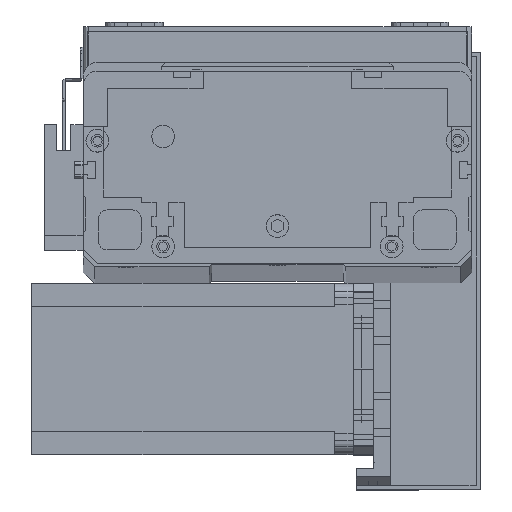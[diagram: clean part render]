
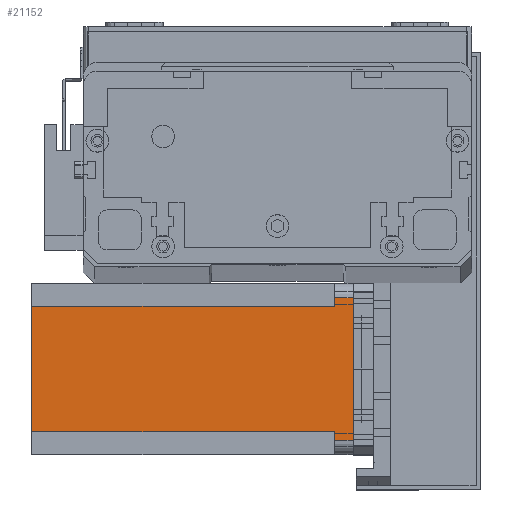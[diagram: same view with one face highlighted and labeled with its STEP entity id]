
A CAD part, top view. The second image highlights one B-rep face of the part: STEP entity #21152.
In plain terms, the highlighted planar face has unit normal (0, 0, 1) as drawn and (0, -1, 0) by its records, which use the part's own axes.
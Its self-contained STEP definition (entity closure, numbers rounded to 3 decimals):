
#128 = LINE ( 'NONE', #22608, #30851 ) ;
#885 = EDGE_CURVE ( 'NONE', #1690, #19047, #23284, .T. ) ;
#1068 = CARTESIAN_POINT ( 'NONE',  ( 8., 0., -6.5 ) ) ;
#1690 = VERTEX_POINT ( 'NONE', #24832 ) ;
#2565 = CARTESIAN_POINT ( 'NONE',  ( 52., 0., -6.5 ) ) ;
#2710 = CARTESIAN_POINT ( 'NONE',  ( 52., 0., -6.5 ) ) ;
#2885 = CARTESIAN_POINT ( 'NONE',  ( 0., 0., -112.5 ) ) ;
#3672 = AXIS2_PLACEMENT_3D ( 'NONE', #7650, #12640, #29608 ) ;
#4115 = VERTEX_POINT ( 'NONE', #2565 ) ;
#4399 = VERTEX_POINT ( 'NONE', #15112 ) ;
#4719 = VECTOR ( 'NONE', #12806, 1000. ) ;
#5925 = CARTESIAN_POINT ( 'NONE',  ( 52., 0., -112.5 ) ) ;
#6932 = EDGE_CURVE ( 'NONE', #1690, #30536, #29539, .T. ) ;
#7650 = CARTESIAN_POINT ( 'NONE',  ( 0., 0., -112.5 ) ) ;
#7760 = FACE_OUTER_BOUND ( 'NONE', #16315, .T. ) ;
#8192 = LINE ( 'NONE', #25888, #13909 ) ;
#8755 = VERTEX_POINT ( 'NONE', #1068 ) ;
#8926 = DIRECTION ( 'NONE',  ( 0., 0., 1. ) ) ;
#9480 = ORIENTED_EDGE ( 'NONE', *, *, #29306, .F. ) ;
#9752 = CARTESIAN_POINT ( 'NONE',  ( 8., 0., -6.5 ) ) ;
#11275 = VECTOR ( 'NONE', #30626, 1000. ) ;
#11493 = ORIENTED_EDGE ( 'NONE', *, *, #28710, .T. ) ;
#12525 = VECTOR ( 'NONE', #19890, 1000. ) ;
#12640 = DIRECTION ( 'NONE',  ( 0., -1., 0. ) ) ;
#12806 = DIRECTION ( 'NONE',  ( 1., 0., 0. ) ) ;
#13292 = LINE ( 'NONE', #2885, #12525 ) ;
#13803 = DIRECTION ( 'NONE',  ( 0., 0., -1. ) ) ;
#13909 = VECTOR ( 'NONE', #8926, 1000. ) ;
#14167 = CARTESIAN_POINT ( 'NONE',  ( 5., 0., -6.5 ) ) ;
#14731 = ORIENTED_EDGE ( 'NONE', *, *, #28435, .F. ) ;
#15112 = CARTESIAN_POINT ( 'NONE',  ( 55., 0., -6.5 ) ) ;
#15244 = CARTESIAN_POINT ( 'NONE',  ( 0., 0., 0. ) ) ;
#15277 = CARTESIAN_POINT ( 'NONE',  ( 55., 0., 0. ) ) ;
#16315 = EDGE_LOOP ( 'NONE', ( #11493, #30137, #20529, #22080, #9480, #24775, #20069, #14731 ) ) ;
#17196 = DIRECTION ( 'NONE',  ( 1., 0., 0. ) ) ;
#18017 = CARTESIAN_POINT ( 'NONE',  ( 8., 0., -112.5 ) ) ;
#18396 = VECTOR ( 'NONE', #24268, 1000. ) ;
#18445 = LINE ( 'NONE', #18471, #11275 ) ;
#18471 = CARTESIAN_POINT ( 'NONE',  ( 52., 0., -112.5 ) ) ;
#19047 = VERTEX_POINT ( 'NONE', #15277 ) ;
#19890 = DIRECTION ( 'NONE',  ( 1., 0., 0. ) ) ;
#20069 = ORIENTED_EDGE ( 'NONE', *, *, #23628, .T. ) ;
#20529 = ORIENTED_EDGE ( 'NONE', *, *, #885, .F. ) ;
#21152 = ADVANCED_FACE ( 'NONE', ( #7760 ), #22252, .T. ) ;
#22080 = ORIENTED_EDGE ( 'NONE', *, *, #6932, .T. ) ;
#22252 = PLANE ( 'NONE',  #3672 ) ;
#22493 = EDGE_CURVE ( 'NONE', #4399, #19047, #128, .T. ) ;
#22608 = CARTESIAN_POINT ( 'NONE',  ( 55., 0., -112.5 ) ) ;
#23225 = VERTEX_POINT ( 'NONE', #5925 ) ;
#23284 = LINE ( 'NONE', #15244, #4719 ) ;
#23628 = EDGE_CURVE ( 'NONE', #24978, #23225, #13292, .T. ) ;
#24098 = LINE ( 'NONE', #9752, #18396 ) ;
#24268 = DIRECTION ( 'NONE',  ( -1., 0., 0. ) ) ;
#24775 = ORIENTED_EDGE ( 'NONE', *, *, #29064, .F. ) ;
#24832 = CARTESIAN_POINT ( 'NONE',  ( 5., 0., 0. ) ) ;
#24978 = VERTEX_POINT ( 'NONE', #18017 ) ;
#25888 = CARTESIAN_POINT ( 'NONE',  ( 8., 0., -112.5 ) ) ;
#28435 = EDGE_CURVE ( 'NONE', #4115, #23225, #18445, .T. ) ;
#28707 = VECTOR ( 'NONE', #17196, 1000. ) ;
#28710 = EDGE_CURVE ( 'NONE', #4115, #4399, #29466, .T. ) ;
#28777 = VECTOR ( 'NONE', #13803, 1000. ) ;
#29064 = EDGE_CURVE ( 'NONE', #24978, #8755, #8192, .T. ) ;
#29306 = EDGE_CURVE ( 'NONE', #8755, #30536, #24098, .T. ) ;
#29466 = LINE ( 'NONE', #2710, #28707 ) ;
#29539 = LINE ( 'NONE', #30779, #28777 ) ;
#29608 = DIRECTION ( 'NONE',  ( 0., 0., -1. ) ) ;
#29956 = DIRECTION ( 'NONE',  ( 0., 0., 1. ) ) ;
#30137 = ORIENTED_EDGE ( 'NONE', *, *, #22493, .T. ) ;
#30536 = VERTEX_POINT ( 'NONE', #14167 ) ;
#30626 = DIRECTION ( 'NONE',  ( 0., 0., -1. ) ) ;
#30779 = CARTESIAN_POINT ( 'NONE',  ( 5., 0., -112.5 ) ) ;
#30851 = VECTOR ( 'NONE', #29956, 1000. ) ;
